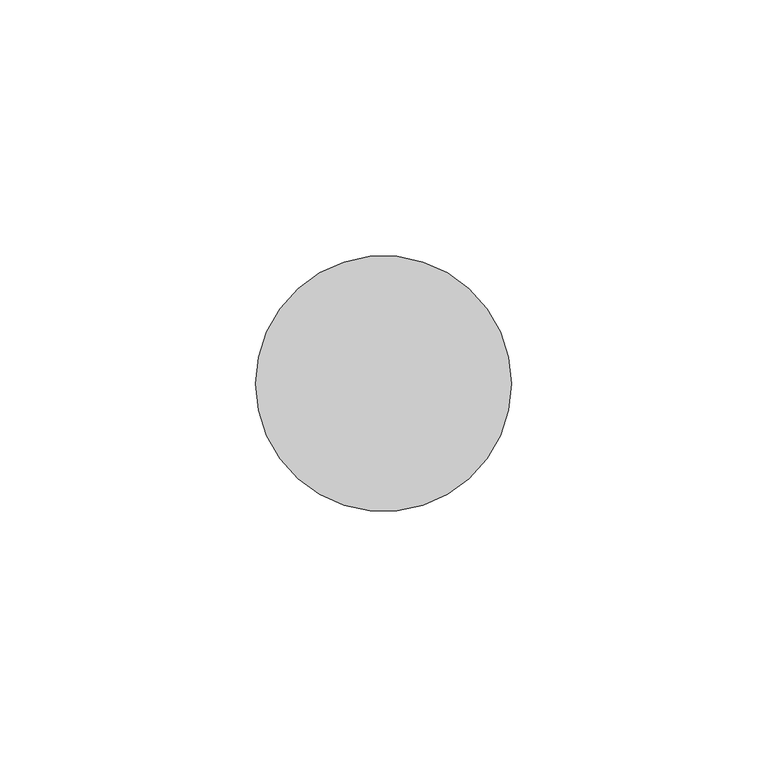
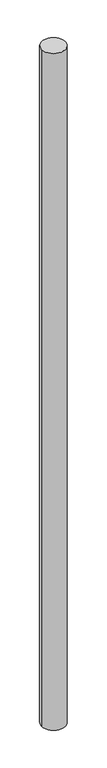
"""IFC4 building model written with IfcOpenShell, lengths in millimetres: member geometry, 圓形豎框 : 25mm 半徑."""

from ifc_helpers import new_model, si_unit, point, frame, origin, origin_2d, place, context, project, spatial, circle_curve, trimmed, segment, composite_curve, outline, extrude, source, transform, mapped, element, save


def member_9d098597(model_context):
    return source(origin(), model_context, "Body", "SweptSolid", [
        extrude(outline(composite_curve([segment(trimmed(circle_curve(origin_2d(), 25.0), [point((25.0, 0.0))], [point((-25.0, 0.0))], False, "CARTESIAN"), True, "CONTINUOUS"), segment(trimmed(circle_curve(origin_2d(), 25.0), [point((-25.0, 0.0))], [point((25.0, 0.0))], False, "CARTESIAN"), True, "CONTINUOUS")], self_intersect=False)), frame((0.0, 0.0, -1499.7717519), z_axis=(0.0, 0.0, 1.0), x_axis=(1.0, 0.0, 0.0)), (0.0, 0.0, 1.0), 1499.7717519),
    ])


if __name__ == "__main__":
    model = new_model("IFC4")
    model_context = context("Model", 3, world=origin())
    ifc_project = project(units=[si_unit("LENGTHUNIT", "METRE", prefix="MILLI")], contexts=[model_context])
    site = spatial("IfcSite", under=ifc_project)
    building = spatial("IfcBuilding", under=site)
    placement = place(None, origin())
    member_shape = member_9d098597(model_context)
    element("IfcMember", 1, ObjectType="圓形豎框 : 25mm 半徑", at=placement, inside=building, context=model_context, shape_type="MappedRepresentation", body=[
        mapped(member_shape, transform((0.0, 0.0, 0.0), x_axis=(1.0, 0.0, 0.0), y_axis=(0.0, 1.0, 0.0), z_axis=(0.0, 0.0, 1.0))),
    ])
    save(model, "model.ifc")
